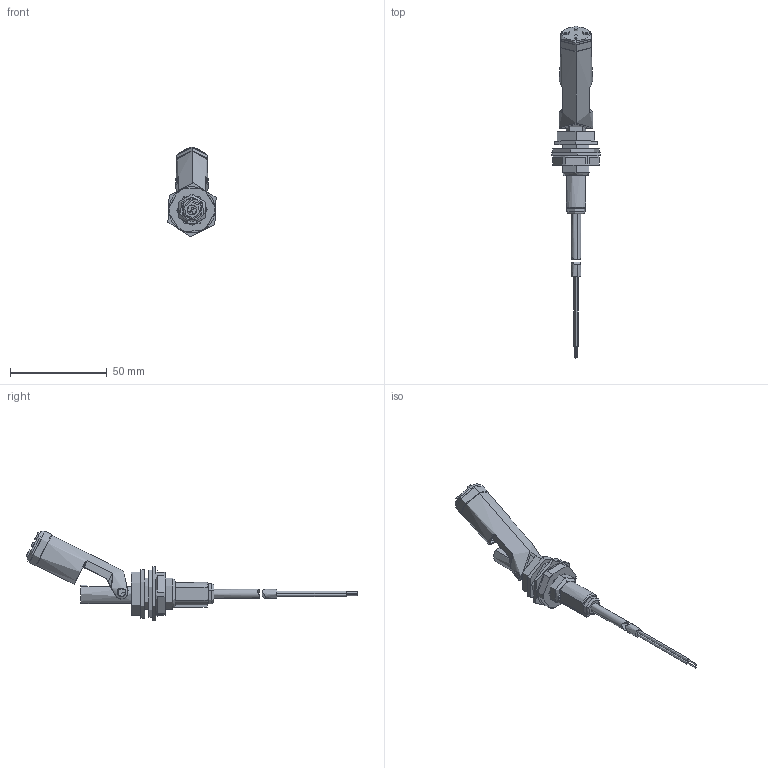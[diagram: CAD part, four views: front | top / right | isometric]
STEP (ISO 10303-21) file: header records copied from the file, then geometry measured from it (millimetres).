
FILE_DESCRIPTION (( 'STEP AP214' ), '1' );
FILE_NAME ('L221xx_rev1.STEP', '2025-08-06T14:46:07', ( '' ), ( '' ), 'SwSTEP 2.0', 'SolidWorks 2025', '' );
FILE_SCHEMA (( 'AUTOMOTIVE_DESIGN' ));
Length unit declared in the file: millimetre
Products named in the file (10): 1L20 03 00 0000_rev4; 1L20 02 00 0000_rev7; 1VGU25160000; L201-xxx; 1STA 01 00 0000; 2G20 02 NEW 000_rev02; 1VRA28160000; 1VDA16020000; L221xx_rev1; Cavo 1PDA
Assembly tree (10 placements, depth 3):
  L221xx_rev1
    L201-xxx
    1STA 01 00 0000
    1VRA28160000
    1VDA16020000
    Cavo 1PDA
    2G20 02 NEW 000_rev02
      1L20 02 00 0000_rev7
      1L20 03 00 0000_rev4
    1VGU25160000  x2
Bounding box: 24.89 x 171.34 x 46.38 mm (x, y, z)
Volume: 21038.6 mm3; surface area: 15512.9 mm2
Topology: 10 solids, 10 shells, 324 faces, 765 edges, 491 vertices
Faces by surface type: plane 136, cylinder 121, bspline 29, torus 26, cone 11, sphere 1
Entity records: 11883 total; most frequent: CARTESIAN_POINT 4017, DIRECTION 1533, ORIENTED_EDGE 1506, EDGE_CURVE 753, AXIS2_PLACEMENT_3D 578, VERTEX_POINT 483, LINE 377, VECTOR 377
